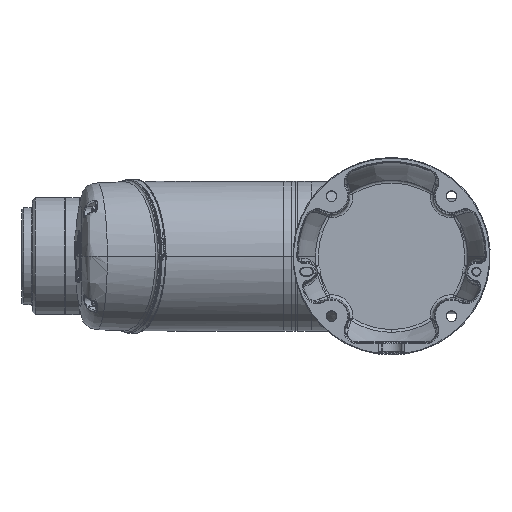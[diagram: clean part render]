
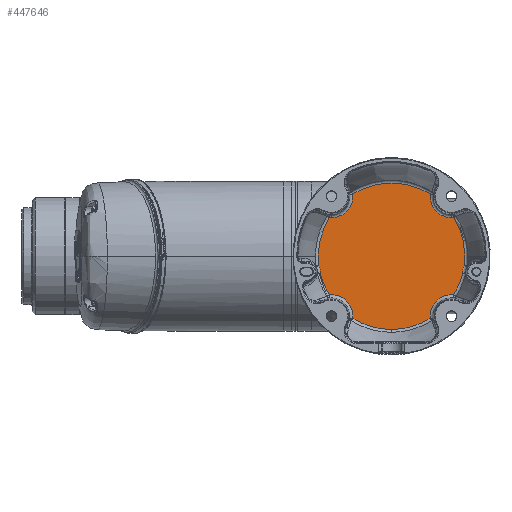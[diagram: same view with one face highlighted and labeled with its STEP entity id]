
A CAD part, front view. The second image highlights one B-rep face of the part: STEP entity #447646.
In plain terms, the highlighted planar face has unit normal (0, -1, 0).
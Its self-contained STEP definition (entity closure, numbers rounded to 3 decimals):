
#8979 = DIRECTION ( 'NONE',  ( 0., 1., 0. ) ) ;
#10711 = CARTESIAN_POINT ( 'NONE',  ( 0., 53.5, 0. ) ) ;
#12864 = DIRECTION ( 'NONE',  ( 0., 0., -1. ) ) ;
#13936 = ORIENTED_EDGE ( 'NONE', *, *, #351728, .T. ) ;
#15867 = VERTEX_POINT ( 'NONE', #227459 ) ;
#24109 = CIRCLE ( 'NONE', #474528, 47.451 ) ;
#24789 = DIRECTION ( 'NONE',  ( 0., 1., 0. ) ) ;
#26921 = VERTEX_POINT ( 'NONE', #53841 ) ;
#31083 = AXIS2_PLACEMENT_3D ( 'NONE', #214764, #141933, #219553 ) ;
#32363 = VERTEX_POINT ( 'NONE', #342721 ) ;
#34855 = DIRECTION ( 'NONE',  ( 0., -1., 0. ) ) ;
#35827 = AXIS2_PLACEMENT_3D ( 'NONE', #323898, #24789, #102305 ) ;
#38215 = CARTESIAN_POINT ( 'NONE',  ( -38.891, 53.5, -38.891 ) ) ;
#41910 = DIRECTION ( 'NONE',  ( 0., -1., 0. ) ) ;
#43664 = VERTEX_POINT ( 'NONE', #237212 ) ;
#44389 = EDGE_CURVE ( 'NONE', #197452, #219305, #457243, .T. ) ;
#44720 = DIRECTION ( 'NONE',  ( 0., 1., 0. ) ) ;
#53841 = CARTESIAN_POINT ( 'NONE',  ( 25.062, 53.5, 40.292 ) ) ;
#54372 = AXIS2_PLACEMENT_3D ( 'NONE', #443822, #149256, #262527 ) ;
#54781 = EDGE_CURVE ( 'NONE', #15867, #26921, #117607, .T. ) ;
#55762 = ORIENTED_EDGE ( 'NONE', *, *, #211066, .T. ) ;
#59581 = DIRECTION ( 'NONE',  ( 0., -1., 0. ) ) ;
#61714 = ORIENTED_EDGE ( 'NONE', *, *, #157558, .T. ) ;
#62885 = CARTESIAN_POINT ( 'NONE',  ( 25.062, 53.5, -40.292 ) ) ;
#64161 = ORIENTED_EDGE ( 'NONE', *, *, #461037, .T. ) ;
#69651 = DIRECTION ( 'NONE',  ( 0., 1., 0. ) ) ;
#75584 = DIRECTION ( 'NONE',  ( 0., 0., -1. ) ) ;
#80075 = ORIENTED_EDGE ( 'NONE', *, *, #44389, .T. ) ;
#80212 = CIRCLE ( 'NONE', #433162, 8.899 ) ;
#80936 = ORIENTED_EDGE ( 'NONE', *, *, #456328, .T. ) ;
#83312 = CARTESIAN_POINT ( 'NONE',  ( -55., 53.5, -10. ) ) ;
#85704 = ORIENTED_EDGE ( 'NONE', *, *, #54781, .T. ) ;
#89419 = EDGE_CURVE ( 'NONE', #32363, #194669, #94747, .T. ) ;
#94747 = CIRCLE ( 'NONE', #216078, 13.899 ) ;
#95532 = CIRCLE ( 'NONE', #35827, 13.899 ) ;
#99421 = CIRCLE ( 'NONE', #350481, 8.899 ) ;
#100212 = DIRECTION ( 'NONE',  ( 0., 1., 0. ) ) ;
#101494 = CARTESIAN_POINT ( 'NONE',  ( 0., 53.5, 0. ) ) ;
#102305 = DIRECTION ( 'NONE',  ( 0., 0., -1. ) ) ;
#103488 = ORIENTED_EDGE ( 'NONE', *, *, #278201, .T. ) ;
#105961 = CARTESIAN_POINT ( 'NONE',  ( 0., 53.5, 0. ) ) ;
#106656 = ORIENTED_EDGE ( 'NONE', *, *, #239139, .T. ) ;
#115731 = DIRECTION ( 'NONE',  ( 0., 0., -1. ) ) ;
#116310 = CARTESIAN_POINT ( 'NONE',  ( -38.891, 53.5, 38.891 ) ) ;
#117607 = CIRCLE ( 'NONE', #31083, 13.899 ) ;
#117935 = PLANE ( 'NONE',  #211777 ) ;
#133338 = ORIENTED_EDGE ( 'NONE', *, *, #167435, .T. ) ;
#133491 = AXIS2_PLACEMENT_3D ( 'NONE', #450890, #44720, #75584 ) ;
#141573 = DIRECTION ( 'NONE',  ( 0., -1., 0. ) ) ;
#141933 = DIRECTION ( 'NONE',  ( 0., 1., 0. ) ) ;
#144885 = CARTESIAN_POINT ( 'NONE',  ( 0., 53.5, 0. ) ) ;
#145202 = CIRCLE ( 'NONE', #177754, 47.451 ) ;
#149256 = DIRECTION ( 'NONE',  ( 0., -1., 0. ) ) ;
#153468 = DIRECTION ( 'NONE',  ( 0., 1., 0. ) ) ;
#156793 = CARTESIAN_POINT ( 'NONE',  ( 0., 53.5, 0. ) ) ;
#157558 = EDGE_CURVE ( 'NONE', #218057, #197452, #95532, .T. ) ;
#161850 = DIRECTION ( 'NONE',  ( 0., 0., -1. ) ) ;
#163425 = DIRECTION ( 'NONE',  ( 0., -1., 0. ) ) ;
#167435 = EDGE_CURVE ( 'NONE', #43664, #444455, #24109, .T. ) ;
#167979 = CARTESIAN_POINT ( 'NONE',  ( -40.292, 53.5, 25.062 ) ) ;
#177754 = AXIS2_PLACEMENT_3D ( 'NONE', #105961, #141573, #295166 ) ;
#191182 = EDGE_CURVE ( 'NONE', #328635, #15867, #418890, .T. ) ;
#193980 = DIRECTION ( 'NONE',  ( 0., -1., 0. ) ) ;
#194669 = VERTEX_POINT ( 'NONE', #451448 ) ;
#197452 = VERTEX_POINT ( 'NONE', #461103 ) ;
#198613 = VERTEX_POINT ( 'NONE', #284370 ) ;
#211066 = EDGE_CURVE ( 'NONE', #26921, #32363, #346100, .T. ) ;
#211777 = AXIS2_PLACEMENT_3D ( 'NONE', #452898, #41910, #448089 ) ;
#213450 = CARTESIAN_POINT ( 'NONE',  ( -38.891, 53.5, 38.891 ) ) ;
#214764 = CARTESIAN_POINT ( 'NONE',  ( 38.891, 53.5, 38.891 ) ) ;
#215293 = CARTESIAN_POINT ( 'NONE',  ( 55., 53.5, -10. ) ) ;
#215820 = CIRCLE ( 'NONE', #244359, 13.899 ) ;
#216078 = AXIS2_PLACEMENT_3D ( 'NONE', #213450, #100212, #250679 ) ;
#216902 = DIRECTION ( 'NONE',  ( 0., 0., -1. ) ) ;
#218057 = VERTEX_POINT ( 'NONE', #62885 ) ;
#219305 = VERTEX_POINT ( 'NONE', #320365 ) ;
#219553 = DIRECTION ( 'NONE',  ( 0., 0., -1. ) ) ;
#227459 = CARTESIAN_POINT ( 'NONE',  ( 38.891, 53.5, 24.992 ) ) ;
#237212 = CARTESIAN_POINT ( 'NONE',  ( -46.158, 53.5, -11.004 ) ) ;
#238100 = CARTESIAN_POINT ( 'NONE',  ( 40.292, 53.5, 25.062 ) ) ;
#239139 = EDGE_CURVE ( 'NONE', #444455, #248105, #280553, .T. ) ;
#244359 = AXIS2_PLACEMENT_3D ( 'NONE', #116310, #153468, #412421 ) ;
#248105 = VERTEX_POINT ( 'NONE', #454603 ) ;
#248594 = VERTEX_POINT ( 'NONE', #167979 ) ;
#250679 = DIRECTION ( 'NONE',  ( 0., 0., -1. ) ) ;
#255191 = FACE_OUTER_BOUND ( 'NONE', #304373, .T. ) ;
#256507 = AXIS2_PLACEMENT_3D ( 'NONE', #38215, #329410, #256707 ) ;
#256707 = DIRECTION ( 'NONE',  ( 0., 0., -1. ) ) ;
#257187 = CIRCLE ( 'NONE', #358467, 47.451 ) ;
#262527 = DIRECTION ( 'NONE',  ( 0., 0., -1. ) ) ;
#264734 = DIRECTION ( 'NONE',  ( 0., 0., -1. ) ) ;
#266877 = AXIS2_PLACEMENT_3D ( 'NONE', #156793, #193980, #12864 ) ;
#268622 = CIRCLE ( 'NONE', #468908, 47.451 ) ;
#273539 = CARTESIAN_POINT ( 'NONE',  ( 0., 53.5, 0. ) ) ;
#278201 = EDGE_CURVE ( 'NONE', #219305, #356101, #80212, .T. ) ;
#280553 = CIRCLE ( 'NONE', #256507, 13.899 ) ;
#284370 = CARTESIAN_POINT ( 'NONE',  ( 0., 53.5, -47.451 ) ) ;
#293414 = ORIENTED_EDGE ( 'NONE', *, *, #400773, .T. ) ;
#294018 = ORIENTED_EDGE ( 'NONE', *, *, #410674, .T. ) ;
#295166 = DIRECTION ( 'NONE',  ( 0., 0., -1. ) ) ;
#303655 = ORIENTED_EDGE ( 'NONE', *, *, #89419, .T. ) ;
#304373 = EDGE_LOOP ( 'NONE', ( #61714, #80075, #103488, #80936, #430103, #85704, #55762, #303655, #64161, #13936, #293414, #133338, #106656, #294018, #475342 ) ) ;
#315105 = AXIS2_PLACEMENT_3D ( 'NONE', #101494, #59581, #431714 ) ;
#320365 = CARTESIAN_POINT ( 'NONE',  ( 46.158, 53.5, -11.004 ) ) ;
#323898 = CARTESIAN_POINT ( 'NONE',  ( 38.891, 53.5, -38.891 ) ) ;
#328635 = VERTEX_POINT ( 'NONE', #238100 ) ;
#329410 = DIRECTION ( 'NONE',  ( 0., 1., 0. ) ) ;
#335438 = CIRCLE ( 'NONE', #315105, 47.451 ) ;
#342721 = CARTESIAN_POINT ( 'NONE',  ( -25.062, 53.5, 40.292 ) ) ;
#346100 = CIRCLE ( 'NONE', #266877, 47.451 ) ;
#350481 = AXIS2_PLACEMENT_3D ( 'NONE', #83312, #8979, #115731 ) ;
#351728 = EDGE_CURVE ( 'NONE', #248594, #384047, #268622, .T. ) ;
#356101 = VERTEX_POINT ( 'NONE', #371084 ) ;
#358467 = AXIS2_PLACEMENT_3D ( 'NONE', #10711, #419977, #264734 ) ;
#371084 = CARTESIAN_POINT ( 'NONE',  ( 47.077, 53.5, -5.948 ) ) ;
#384047 = VERTEX_POINT ( 'NONE', #412815 ) ;
#400773 = EDGE_CURVE ( 'NONE', #384047, #43664, #99421, .T. ) ;
#410674 = EDGE_CURVE ( 'NONE', #248105, #198613, #335438, .T. ) ;
#412421 = DIRECTION ( 'NONE',  ( 0., 0., -1. ) ) ;
#412815 = CARTESIAN_POINT ( 'NONE',  ( -47.077, 53.5, -5.948 ) ) ;
#418890 = CIRCLE ( 'NONE', #133491, 13.899 ) ;
#419977 = DIRECTION ( 'NONE',  ( 0., -1., 0. ) ) ;
#430103 = ORIENTED_EDGE ( 'NONE', *, *, #191182, .T. ) ;
#431714 = DIRECTION ( 'NONE',  ( 0., 0., -1. ) ) ;
#433162 = AXIS2_PLACEMENT_3D ( 'NONE', #215293, #69651, #216902 ) ;
#436528 = CARTESIAN_POINT ( 'NONE',  ( -40.292, 53.5, -25.062 ) ) ;
#443822 = CARTESIAN_POINT ( 'NONE',  ( 0., 53.5, 0. ) ) ;
#444455 = VERTEX_POINT ( 'NONE', #436528 ) ;
#447646 = ADVANCED_FACE ( 'NONE', ( #255191 ), #117935, .T. ) ;
#448089 = DIRECTION ( 'NONE',  ( 0., 0., -1. ) ) ;
#450890 = CARTESIAN_POINT ( 'NONE',  ( 38.891, 53.5, 38.891 ) ) ;
#451134 = EDGE_CURVE ( 'NONE', #198613, #218057, #145202, .T. ) ;
#451448 = CARTESIAN_POINT ( 'NONE',  ( -38.891, 53.5, 24.992 ) ) ;
#452898 = CARTESIAN_POINT ( 'NONE',  ( 0., 53.5, 0. ) ) ;
#454603 = CARTESIAN_POINT ( 'NONE',  ( -25.062, 53.5, -40.292 ) ) ;
#456328 = EDGE_CURVE ( 'NONE', #356101, #328635, #257187, .T. ) ;
#457243 = CIRCLE ( 'NONE', #54372, 47.451 ) ;
#461037 = EDGE_CURVE ( 'NONE', #194669, #248594, #215820, .T. ) ;
#461103 = CARTESIAN_POINT ( 'NONE',  ( 40.292, 53.5, -25.062 ) ) ;
#468908 = AXIS2_PLACEMENT_3D ( 'NONE', #144885, #34855, #476638 ) ;
#474528 = AXIS2_PLACEMENT_3D ( 'NONE', #273539, #163425, #161850 ) ;
#475342 = ORIENTED_EDGE ( 'NONE', *, *, #451134, .T. ) ;
#476638 = DIRECTION ( 'NONE',  ( 0., 0., -1. ) ) ;
